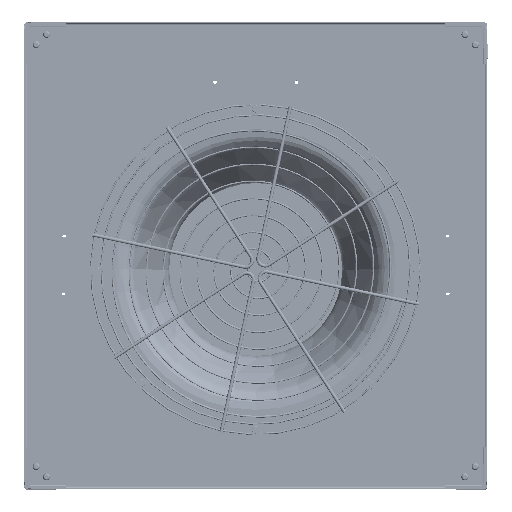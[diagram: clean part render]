
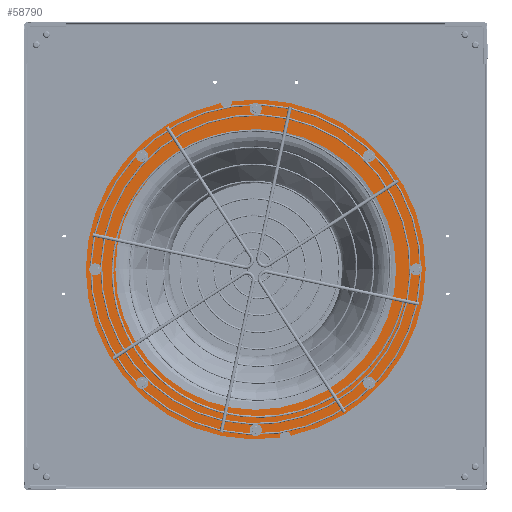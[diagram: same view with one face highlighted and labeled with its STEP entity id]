
A CAD part, top view. The second image highlights one B-rep face of the part: STEP entity #58790.
In plain terms, the highlighted planar face has unit normal (0, 0, 1) as drawn and (1, 0, 0) by its records, which use the part's own axes.
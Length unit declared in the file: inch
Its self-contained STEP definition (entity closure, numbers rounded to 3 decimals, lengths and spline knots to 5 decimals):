
#58097=CARTESIAN_POINT('',(0.,0.,0.));
#58098=DIRECTION('',(-1.,0.,0.));
#58099=DIRECTION('',(0.,1.,0.));
#58100=AXIS2_PLACEMENT_3D('',#58097,#58098,#58099);
#58102=CARTESIAN_POINT('',(0.,0.,0.));
#58103=DIRECTION('',(1.,0.,0.));
#58104=DIRECTION('',(0.,1.,0.));
#58105=AXIS2_PLACEMENT_3D('',#58102,#58103,#58104);
#58107=CARTESIAN_POINT('',(0.,11.69,0.));
#58108=DIRECTION('',(-1.,0.,0.));
#58109=DIRECTION('',(0.,-1.,0.));
#58110=AXIS2_PLACEMENT_3D('',#58107,#58108,#58109);
#58112=CARTESIAN_POINT('',(0.,11.69,0.));
#58113=DIRECTION('',(-1.,0.,0.));
#58114=DIRECTION('',(0.,1.,0.));
#58115=AXIS2_PLACEMENT_3D('',#58112,#58113,#58114);
#58117=CARTESIAN_POINT('',(0.,8.26608,8.26608));
#58118=DIRECTION('',(-1.,0.,0.));
#58119=DIRECTION('',(0.,-1.,0.));
#58120=AXIS2_PLACEMENT_3D('',#58117,#58118,#58119);
#58122=CARTESIAN_POINT('',(0.,8.26608,8.26608));
#58123=DIRECTION('',(-1.,0.,0.));
#58124=DIRECTION('',(0.,1.,0.));
#58125=AXIS2_PLACEMENT_3D('',#58122,#58123,#58124);
#58127=CARTESIAN_POINT('',(0.,0.,11.69));
#58128=DIRECTION('',(-1.,0.,0.));
#58129=DIRECTION('',(0.,-1.,0.));
#58130=AXIS2_PLACEMENT_3D('',#58127,#58128,#58129);
#58132=CARTESIAN_POINT('',(0.,0.,11.69));
#58133=DIRECTION('',(-1.,0.,0.));
#58134=DIRECTION('',(0.,1.,0.));
#58135=AXIS2_PLACEMENT_3D('',#58132,#58133,#58134);
#58137=CARTESIAN_POINT('',(0.,-8.26608,8.26608));
#58138=DIRECTION('',(-1.,0.,0.));
#58139=DIRECTION('',(0.,-1.,0.));
#58140=AXIS2_PLACEMENT_3D('',#58137,#58138,#58139);
#58142=CARTESIAN_POINT('',(0.,-8.26608,8.26608));
#58143=DIRECTION('',(-1.,0.,0.));
#58144=DIRECTION('',(0.,1.,0.));
#58145=AXIS2_PLACEMENT_3D('',#58142,#58143,#58144);
#58147=CARTESIAN_POINT('',(0.,-11.69,0.));
#58148=DIRECTION('',(-1.,0.,0.));
#58149=DIRECTION('',(0.,-1.,0.));
#58150=AXIS2_PLACEMENT_3D('',#58147,#58148,#58149);
#58152=CARTESIAN_POINT('',(0.,-11.69,0.));
#58153=DIRECTION('',(-1.,0.,0.));
#58154=DIRECTION('',(0.,1.,0.));
#58155=AXIS2_PLACEMENT_3D('',#58152,#58153,#58154);
#58157=CARTESIAN_POINT('',(0.,-8.26608,-8.26608));
#58158=DIRECTION('',(-1.,0.,0.));
#58159=DIRECTION('',(0.,-1.,0.));
#58160=AXIS2_PLACEMENT_3D('',#58157,#58158,#58159);
#58162=CARTESIAN_POINT('',(0.,-8.26608,-8.26608));
#58163=DIRECTION('',(-1.,0.,0.));
#58164=DIRECTION('',(0.,1.,0.));
#58165=AXIS2_PLACEMENT_3D('',#58162,#58163,#58164);
#58167=CARTESIAN_POINT('',(0.,0.,-11.69));
#58168=DIRECTION('',(-1.,0.,0.));
#58169=DIRECTION('',(0.,-1.,0.));
#58170=AXIS2_PLACEMENT_3D('',#58167,#58168,#58169);
#58172=CARTESIAN_POINT('',(0.,0.,-11.69));
#58173=DIRECTION('',(-1.,0.,0.));
#58174=DIRECTION('',(0.,1.,0.));
#58175=AXIS2_PLACEMENT_3D('',#58172,#58173,#58174);
#58177=CARTESIAN_POINT('',(0.,8.26608,-8.26608));
#58178=DIRECTION('',(-1.,0.,0.));
#58179=DIRECTION('',(0.,-1.,0.));
#58180=AXIS2_PLACEMENT_3D('',#58177,#58178,#58179);
#58182=CARTESIAN_POINT('',(0.,8.26608,-8.26608));
#58183=DIRECTION('',(-1.,0.,0.));
#58184=DIRECTION('',(0.,1.,0.));
#58185=AXIS2_PLACEMENT_3D('',#58182,#58183,#58184);
#58187=CARTESIAN_POINT('',(0.,2.1489,-12.187));
#58188=DIRECTION('',(1.,0.,0.));
#58189=DIRECTION('',(0.,0.982,0.19));
#58190=AXIS2_PLACEMENT_3D('',#58187,#58188,#58189);
#58192=CARTESIAN_POINT('',(0.,-2.1489,12.187));
#58193=DIRECTION('',(1.,0.,0.));
#58194=DIRECTION('',(0.,-0.982,-0.19));
#58195=AXIS2_PLACEMENT_3D('',#58192,#58193,#58194);
#58398=CARTESIAN_POINT('',(0.,0.,0.));
#58399=DIRECTION('',(1.,0.,0.));
#58400=DIRECTION('',(0.,0.206,-0.979));
#58401=AXIS2_PLACEMENT_3D('',#58398,#58399,#58400);
#58407=CARTESIAN_POINT('',(0.,0.,0.));
#58408=DIRECTION('',(1.,0.,0.));
#58409=DIRECTION('',(0.,-0.206,0.979));
#58410=AXIS2_PLACEMENT_3D('',#58407,#58408,#58409);
#58431=CARTESIAN_POINT('',(0.,10.22,0.));
#58432=VERTEX_POINT('',#58431);
#58445=CARTESIAN_POINT('',(0.,-10.22,0.));
#58446=VERTEX_POINT('',#58445);
#58457=CARTESIAN_POINT('',(0.,11.284,0.));
#58458=CARTESIAN_POINT('',(0.,12.096,0.));
#58459=VERTEX_POINT('',#58457);
#58460=VERTEX_POINT('',#58458);
#58465=CARTESIAN_POINT('',(0.,7.86008,8.26608));
#58466=CARTESIAN_POINT('',(0.,8.67208,8.26608));
#58467=VERTEX_POINT('',#58465);
#58468=VERTEX_POINT('',#58466);
#58473=CARTESIAN_POINT('',(0.,-0.406,11.69));
#58474=CARTESIAN_POINT('',(0.,0.406,11.69));
#58475=VERTEX_POINT('',#58473);
#58476=VERTEX_POINT('',#58474);
#58481=CARTESIAN_POINT('',(0.,-8.67208,8.26608));
#58482=CARTESIAN_POINT('',(0.,-7.86008,8.26608));
#58483=VERTEX_POINT('',#58481);
#58484=VERTEX_POINT('',#58482);
#58489=CARTESIAN_POINT('',(0.,-12.096,0.));
#58490=CARTESIAN_POINT('',(0.,-11.284,0.));
#58491=VERTEX_POINT('',#58489);
#58492=VERTEX_POINT('',#58490);
#58497=CARTESIAN_POINT('',(0.,-8.67208,-8.26608));
#58498=CARTESIAN_POINT('',(0.,-7.86008,-8.26608));
#58499=VERTEX_POINT('',#58497);
#58500=VERTEX_POINT('',#58498);
#58505=CARTESIAN_POINT('',(0.,-0.406,-11.69));
#58506=CARTESIAN_POINT('',(0.,0.406,-11.69));
#58507=VERTEX_POINT('',#58505);
#58508=VERTEX_POINT('',#58506);
#58513=CARTESIAN_POINT('',(0.,7.86008,-8.26608));
#58514=CARTESIAN_POINT('',(0.,8.67208,-8.26608));
#58515=VERTEX_POINT('',#58513);
#58516=VERTEX_POINT('',#58514);
#58521=CARTESIAN_POINT('',(0.,2.54752,-12.10995));
#58522=CARTESIAN_POINT('',(0.,1.74796,-12.25093));
#58523=VERTEX_POINT('',#58521);
#58524=VERTEX_POINT('',#58522);
#58525=CARTESIAN_POINT('',(0.,-2.54752,12.10995));
#58526=CARTESIAN_POINT('',(0.,-1.74796,12.25093));
#58527=VERTEX_POINT('',#58525);
#58528=VERTEX_POINT('',#58526);
#58723=CARTESIAN_POINT('',(0.,0.,0.));
#58724=DIRECTION('',(1.,0.,0.));
#58725=DIRECTION('',(0.,-1.,0.));
#58726=AXIS2_PLACEMENT_3D('',#58723,#58724,#58725);
#58727=PLANE('',#58726);
#58729=ORIENTED_EDGE('',*,*,#58728,.T.);
#58731=ORIENTED_EDGE('',*,*,#58730,.F.);
#58733=ORIENTED_EDGE('',*,*,#58732,.T.);
#58735=ORIENTED_EDGE('',*,*,#58734,.F.);
#58736=EDGE_LOOP('',(#58729,#58731,#58733,#58735));
#58737=FACE_OUTER_BOUND('',#58736,.F.);
#58739=ORIENTED_EDGE('',*,*,#58738,.F.);
#58741=ORIENTED_EDGE('',*,*,#58740,.F.);
#58742=EDGE_LOOP('',(#58739,#58741));
#58743=FACE_BOUND('',#58742,.F.);
#58745=ORIENTED_EDGE('',*,*,#58744,.F.);
#58747=ORIENTED_EDGE('',*,*,#58746,.F.);
#58748=EDGE_LOOP('',(#58745,#58747));
#58749=FACE_BOUND('',#58748,.F.);
#58751=ORIENTED_EDGE('',*,*,#58750,.F.);
#58753=ORIENTED_EDGE('',*,*,#58752,.F.);
#58754=EDGE_LOOP('',(#58751,#58753));
#58755=FACE_BOUND('',#58754,.F.);
#58757=ORIENTED_EDGE('',*,*,#58756,.F.);
#58759=ORIENTED_EDGE('',*,*,#58758,.F.);
#58760=EDGE_LOOP('',(#58757,#58759));
#58761=FACE_BOUND('',#58760,.F.);
#58763=ORIENTED_EDGE('',*,*,#58762,.F.);
#58765=ORIENTED_EDGE('',*,*,#58764,.F.);
#58766=EDGE_LOOP('',(#58763,#58765));
#58767=FACE_BOUND('',#58766,.F.);
#58769=ORIENTED_EDGE('',*,*,#58768,.F.);
#58771=ORIENTED_EDGE('',*,*,#58770,.F.);
#58772=EDGE_LOOP('',(#58769,#58771));
#58773=FACE_BOUND('',#58772,.F.);
#58775=ORIENTED_EDGE('',*,*,#58774,.F.);
#58777=ORIENTED_EDGE('',*,*,#58776,.F.);
#58778=EDGE_LOOP('',(#58775,#58777));
#58779=FACE_BOUND('',#58778,.F.);
#58781=ORIENTED_EDGE('',*,*,#58780,.F.);
#58783=ORIENTED_EDGE('',*,*,#58782,.F.);
#58784=EDGE_LOOP('',(#58781,#58783));
#58785=FACE_BOUND('',#58784,.F.);
#58786=ORIENTED_EDGE('',*,*,#58716,.F.);
#58787=ORIENTED_EDGE('',*,*,#58705,.T.);
#58788=EDGE_LOOP('',(#58786,#58787));
#58789=FACE_BOUND('',#58788,.F.);
#58790=ADVANCED_FACE('',(#58737,#58743,#58749,#58755,#58761,#58767,#58773,
#58779,#58785,#58789),#58727,.T.);
#58101=CIRCLE('',#58100,10.22);
#58106=CIRCLE('',#58105,10.22);
#58111=CIRCLE('',#58110,0.406);
#58116=CIRCLE('',#58115,0.406);
#58121=CIRCLE('',#58120,0.406);
#58126=CIRCLE('',#58125,0.406);
#58131=CIRCLE('',#58130,0.406);
#58136=CIRCLE('',#58135,0.406);
#58141=CIRCLE('',#58140,0.406);
#58146=CIRCLE('',#58145,0.406);
#58151=CIRCLE('',#58150,0.406);
#58156=CIRCLE('',#58155,0.406);
#58161=CIRCLE('',#58160,0.406);
#58166=CIRCLE('',#58165,0.406);
#58171=CIRCLE('',#58170,0.406);
#58176=CIRCLE('',#58175,0.406);
#58181=CIRCLE('',#58180,0.406);
#58186=CIRCLE('',#58185,0.406);
#58191=CIRCLE('',#58190,0.406);
#58196=CIRCLE('',#58195,0.406);
#58402=CIRCLE('',#58401,12.375);
#58411=CIRCLE('',#58410,12.375);
#58705=EDGE_CURVE('',#58432,#58446,#58106,.T.);
#58716=EDGE_CURVE('',#58432,#58446,#58101,.T.);
#58728=EDGE_CURVE('',#58523,#58524,#58191,.T.);
#58730=EDGE_CURVE('',#58527,#58524,#58411,.T.);
#58732=EDGE_CURVE('',#58527,#58528,#58196,.T.);
#58734=EDGE_CURVE('',#58523,#58528,#58402,.T.);
#58738=EDGE_CURVE('',#58459,#58460,#58111,.T.);
#58740=EDGE_CURVE('',#58460,#58459,#58116,.T.);
#58744=EDGE_CURVE('',#58467,#58468,#58121,.T.);
#58746=EDGE_CURVE('',#58468,#58467,#58126,.T.);
#58750=EDGE_CURVE('',#58475,#58476,#58131,.T.);
#58752=EDGE_CURVE('',#58476,#58475,#58136,.T.);
#58756=EDGE_CURVE('',#58483,#58484,#58141,.T.);
#58758=EDGE_CURVE('',#58484,#58483,#58146,.T.);
#58762=EDGE_CURVE('',#58491,#58492,#58151,.T.);
#58764=EDGE_CURVE('',#58492,#58491,#58156,.T.);
#58768=EDGE_CURVE('',#58499,#58500,#58161,.T.);
#58770=EDGE_CURVE('',#58500,#58499,#58166,.T.);
#58774=EDGE_CURVE('',#58507,#58508,#58171,.T.);
#58776=EDGE_CURVE('',#58508,#58507,#58176,.T.);
#58780=EDGE_CURVE('',#58515,#58516,#58181,.T.);
#58782=EDGE_CURVE('',#58516,#58515,#58186,.T.);
